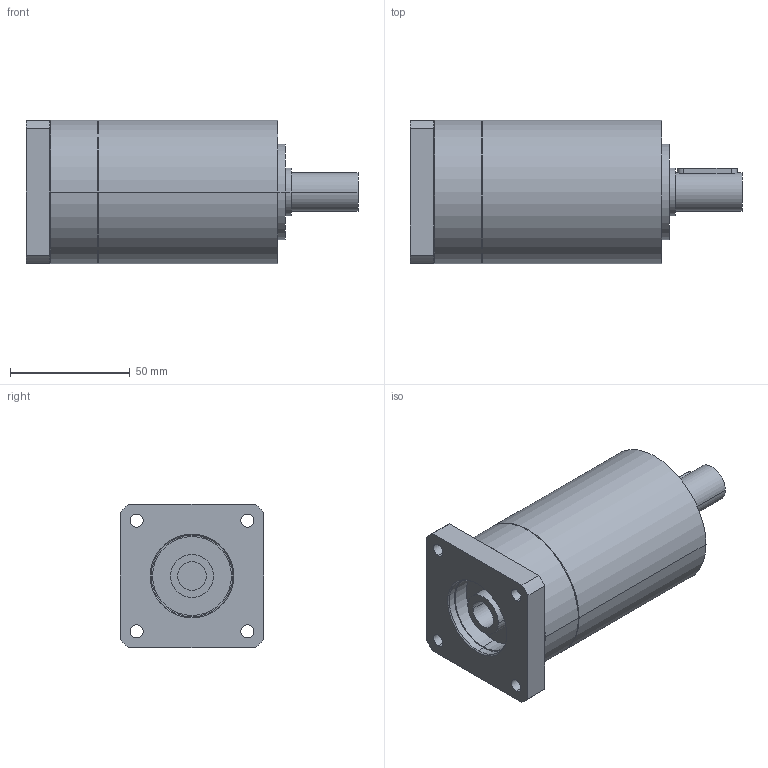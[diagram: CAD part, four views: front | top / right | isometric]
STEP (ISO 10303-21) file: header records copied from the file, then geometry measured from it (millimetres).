
FILE_DESCRIPTION(('CoCreate Modeling STEP Export'),'2;1');
FILE_NAME('GPR75_ig-9-12-16-20-24-30-36_16_B14_12_P26.stp','2014-08-25T16:32:50',(''),(''),'CoCreate Modeling STEP processor for AP214 (Solid Model)','CoCreate Modeling 16.00C 25-Feb-2009 (C) Parametric Technology GmbH','');
FILE_SCHEMA(('AUTOMOTIVE_DESIGN { 1 0 10303 214 1 1 1 1 }'));
Length unit declared in the file: millimetre
Products named in the file (2): GPR75_ig-9-12-16-20-24-30-36_16_B14_12_P26
Assembly tree (1 placements, depth 2):
  GPR75_ig-9-12-16-20-24-30-36_16_B14_12_P26
    GPR75_ig-9-12-16-20-24-30-36_16_B14_12_P26
Bounding box: 138.9 x 60 x 60 mm (x, y, z)
Volume: 302800.9 mm3; surface area: 33733.9 mm2
Topology: 1 solids, 1 shells, 88 faces, 228 edges, 154 vertices
Faces by surface type: cylinder 50, plane 30, cone 8
Entity records: 2317 total; most frequent: ORIENTED_EDGE 452, CARTESIAN_POINT 416, DIRECTION 320, EDGE_CURVE 226, VERTEX_POINT 154, AXIS2_PLACEMENT_3D 122, EDGE_LOOP 110, FACE_OUTER_BOUND 88
